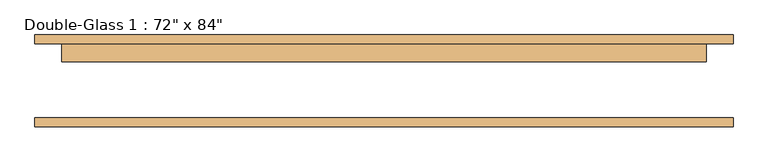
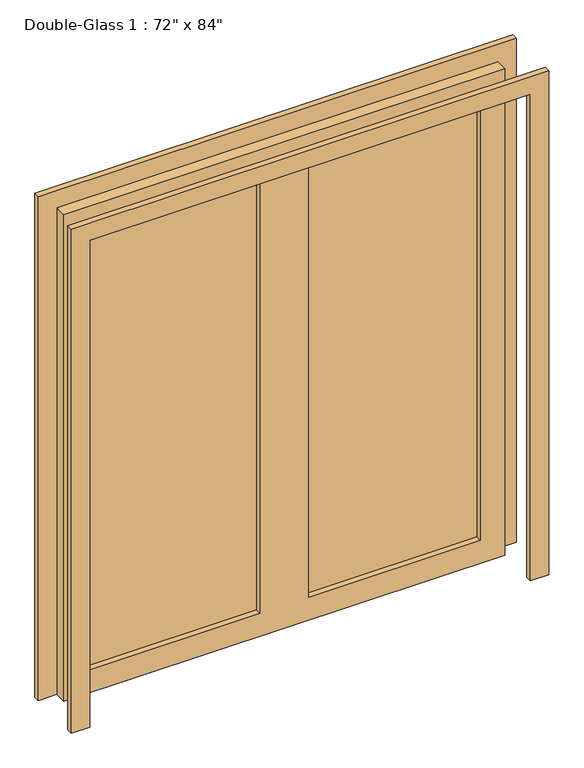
"""IFC4 building model written with IfcOpenShell, lengths in millimetres: door geometry."""

from ifc_helpers import new_model, si_unit, frame, origin, place, context, project, spatial, polyline, outline, extrude, source, transform, mapped, element, save


def door_3f6e6fd8(model_context):
    return source(origin(), model_context, "Body", "SweptSolid", [
        extrude(outline(polyline([(0.0, 990.6), (2209.8, 990.6), (2209.8, -990.6), (0.0, -990.6), (0.0, -914.4), (2133.6, -914.4), (2133.6, 914.4), (0.0, 914.4), (0.0, 990.6)])), frame((0.0, -128.01875, 0.0), z_axis=(0.0, 1.0, 0.0), x_axis=(0.0, 0.0, 1.0)), (0.0, 0.0, 1.0), 25.4),
        extrude(outline(polyline([(2133.6, 914.4), (0.0, 914.4), (0.0, 990.6), (2209.8, 990.6), (2209.8, -990.6), (0.0, -990.6), (0.0, -914.4), (2133.6, -914.4), (2133.6, 914.4)])), frame((0.0, 107.38125, 0.0), z_axis=(0.0, 1.0, 0.0), x_axis=(0.0, 0.0, 1.0)), (0.0, 0.0, 1.0), 25.4),
        extrude(outline(polyline([(812.8, 81.98125), (101.6, 81.98125), (101.6, 89.125), (812.8, 89.125), (812.8, 81.98125)])), frame((0.0, 0.0, 101.6), z_axis=(0.0, 0.0, 1.0), x_axis=(1.0, 0.0, 0.0)), (0.0, 0.0, 1.0), 1930.4),
        extrude(outline(polyline([(-101.6, 81.98125), (-812.8, 81.98125), (-812.8, 89.125), (-101.6, 89.125), (-101.6, 81.98125)])), frame((0.0, 0.0, 101.6), z_axis=(0.0, 0.0, 1.0), x_axis=(1.0, 0.0, 0.0)), (0.0, 0.0, 1.0), 1930.4),
        extrude(outline(polyline([(2133.6, 914.4), (2133.6, -914.4), (0.0, -914.4), (0.0, 914.4), (2133.6, 914.4)]), holes=[polyline([(2032.0, -101.6), (101.6, -101.6), (101.6, -812.8), (2032.0, -812.8), (2032.0, -101.6)]), polyline([(2032.0, 812.8), (101.6, 812.8), (101.6, 101.6), (2032.0, 101.6), (2032.0, 812.8)])]), frame((0.0, 56.58125, 0.0), z_axis=(0.0, 1.0, 0.0), x_axis=(0.0, 0.0, 1.0)), (0.0, 0.0, 1.0), 50.8),
    ])


if __name__ == "__main__":
    model = new_model("IFC4")
    model_context = context("Model", 3, world=origin())
    ifc_project = project(units=[si_unit("LENGTHUNIT", "METRE", prefix="MILLI")], contexts=[model_context])
    site = spatial("IfcSite", under=ifc_project)
    building = spatial("IfcBuilding", under=site)
    placement = place(None, origin())
    door_shape = door_3f6e6fd8(model_context)
    element("IfcDoor", 1, ObjectType="Double-Glass 1 : 72\" x 84\"", at=placement, inside=building, context=model_context, shape_type="MappedRepresentation", body=[
        mapped(door_shape, transform((0.0, 0.0, 0.0), x_axis=(1.0, 0.0, 0.0), y_axis=(0.0, 1.0, 0.0), z_axis=(0.0, 0.0, 1.0))),
    ])
    save(model, "model.ifc")
